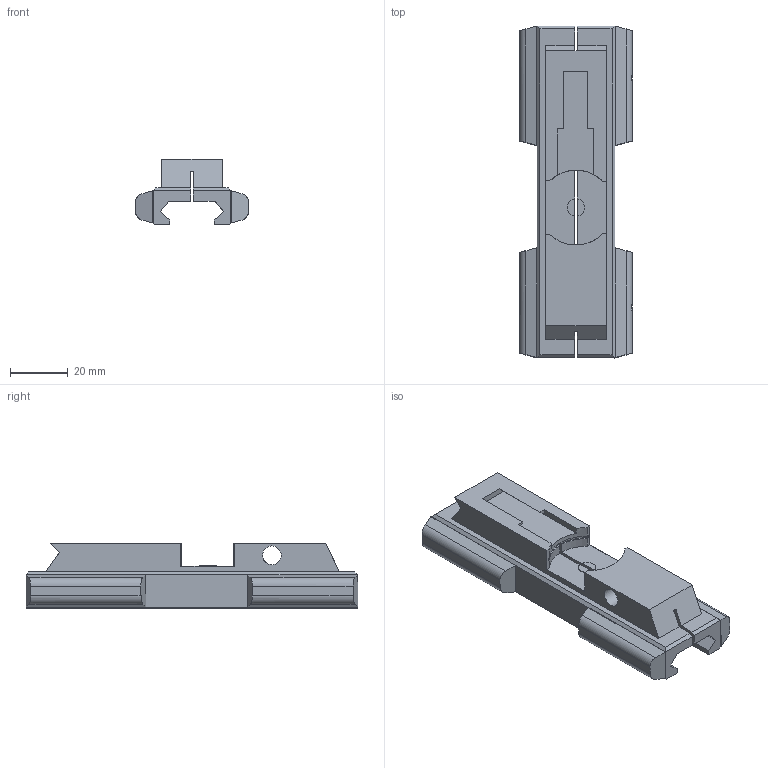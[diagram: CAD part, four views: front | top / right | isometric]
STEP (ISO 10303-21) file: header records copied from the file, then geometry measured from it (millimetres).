
FILE_DESCRIPTION(('HOOPS Exchange Step'),'2;1');
FILE_NAME('/private/var/mobile/Containers/Data/Application/4B1A7BF2-BF60-4167-B720-BE744F57E5F5/tmp/export/temp_export','2026-08-15T11:34:21-05:00',('mobile'),('Shapr3D Limited'),'HOOPS Exchange 2026.3','Shapr3D','Authorized');
FILE_SCHEMA( ('AP242_MANAGED_MODEL_BASED_3D_ENGINEERING_MIM_LF {1 0 10303 442 1 1 4}') );
Length unit declared in the file: millimetre
Products named in the file (5): Base; Display; Base.step; root
Assembly tree (4 placements, depth 5):
  root
    Base.step
      Display
        Display
          Base
Bounding box: 39.2 x 115.16 x 22.74 mm (x, y, z)
Volume: 44163.2 mm3; surface area: 18773.4 mm2
Topology: 1 solids, 1 shells, 156 faces, 442 edges, 286 vertices
Faces by surface type: plane 121, cylinder 35
Full cylindrical faces by diameter (mm): 3.25 x4, 4 x2, 4.1 x2, 5.75 x2, 6.5 x1
Entity records: 5408 total; most frequent: CARTESIAN_POINT 1257, ORIENTED_EDGE 884, DIRECTION 804, EDGE_CURVE 442, VECTOR 338, LINE 338, VERTEX_POINT 286, AXIS2_PLACEMENT_3D 233
